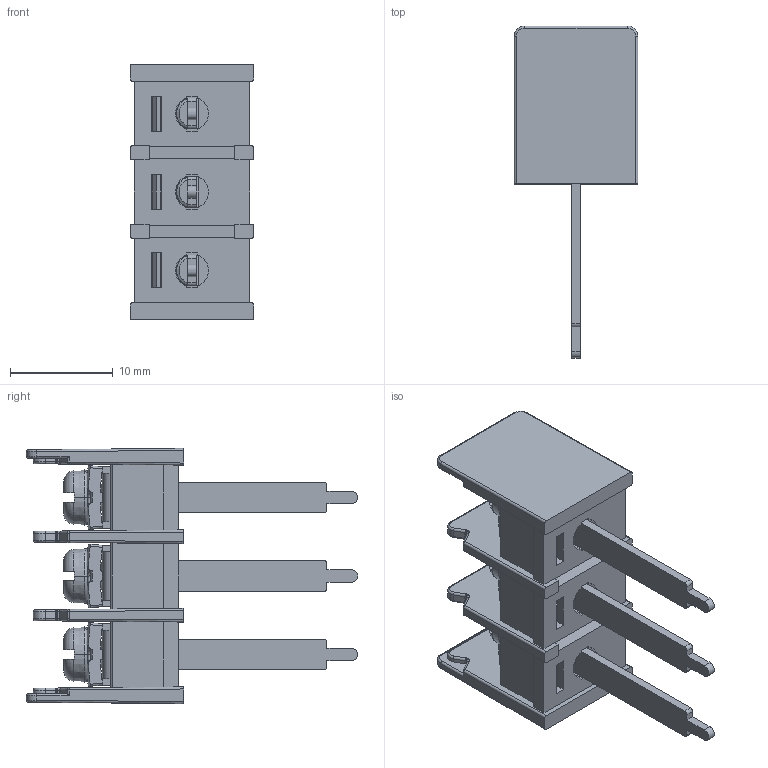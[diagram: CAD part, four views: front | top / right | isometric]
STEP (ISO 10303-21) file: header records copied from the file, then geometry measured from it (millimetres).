
FILE_DESCRIPTION((''),'2;1');
FILE_NAME('3PIN','2021-04-15T',('hanke'),(''),'CREO PARAMETRIC BY PTC INC, 2016260','CREO PARAMETRIC BY PTC INC, 2016260','');
FILE_SCHEMA(('CONFIG_CONTROL_DESIGN'));
Products named in the file (1): 3PIN
Bounding box: 12 x 32.2 x 24.78 mm (x, y, z)
Volume: 2206.3 mm3; surface area: 4451.8 mm2
Topology: 1 solids, 1 shells, 1248 faces, 3718 edges, 2369 vertices
Faces by surface type: plane 670, cylinder 300, bspline 102, torus 80, sphere 60, cone 36
Entity records: 54841 total; most frequent: CARTESIAN_POINT 22502, ORIENTED_EDGE 7400, DIRECTION 6076, EDGE_CURVE 3700, VERTEX_POINT 2369, VECTOR 2040, LINE 2040, AXIS2_PLACEMENT_3D 2018
